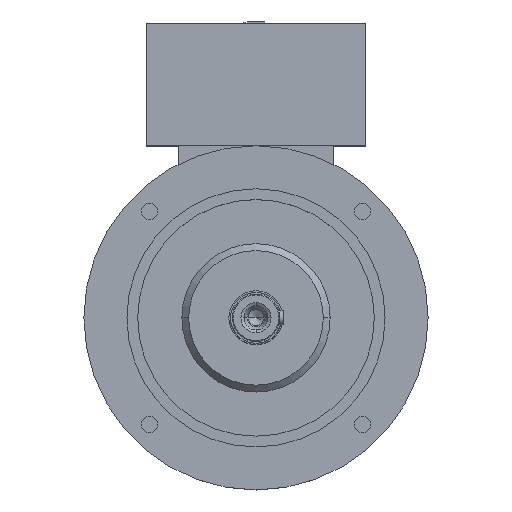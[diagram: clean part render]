
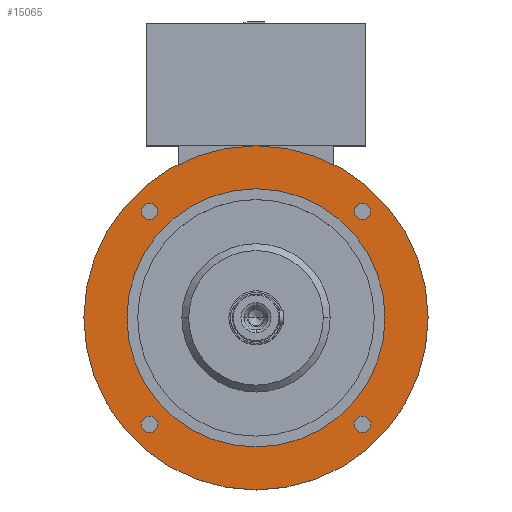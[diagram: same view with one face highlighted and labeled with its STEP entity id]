
A CAD part, top view. The second image highlights one B-rep face of the part: STEP entity #15065.
In plain terms, the highlighted planar face has unit normal (0, 0, 1).
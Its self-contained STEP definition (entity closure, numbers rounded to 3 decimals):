
#205 = VERTEX_POINT ( 'NONE', #16110 ) ;
#340 = VERTEX_POINT ( 'NONE', #16185 ) ;
#785 = AXIS2_PLACEMENT_3D ( 'NONE', #16694, #5240, #14583 ) ;
#822 = EDGE_CURVE ( 'NONE', #6217, #340, #4736, .T. ) ;
#929 = CARTESIAN_POINT ( 'NONE',  ( 114.244, 123.744, 285.5 ) ) ;
#1386 = EDGE_CURVE ( 'NONE', #5854, #18578, #20565, .T. ) ;
#1522 = DIRECTION ( 'NONE',  ( -1., 0., 0. ) ) ;
#1582 = DIRECTION ( 'NONE',  ( 1., 0., 0. ) ) ;
#1885 = EDGE_CURVE ( 'NONE', #205, #24099, #11578, .T. ) ;
#2060 = CIRCLE ( 'NONE', #10553, 150. ) ;
#3074 = ORIENTED_EDGE ( 'NONE', *, *, #17487, .T. ) ;
#3111 = DIRECTION ( 'NONE',  ( 1., 0., 0. ) ) ;
#3278 = CARTESIAN_POINT ( 'NONE',  ( 114.244, -123.744, 285.5 ) ) ;
#3462 = FACE_BOUND ( 'NONE', #14630, .T. ) ;
#3557 = CARTESIAN_POINT ( 'NONE',  ( -123.744, 123.744, 285.5 ) ) ;
#3851 = CARTESIAN_POINT ( 'NONE',  ( -133.244, -123.744, 285.5 ) ) ;
#4111 = DIRECTION ( 'NONE',  ( -1., 0., 0. ) ) ;
#4323 = CARTESIAN_POINT ( 'NONE',  ( -123.744, 123.744, 285.5 ) ) ;
#4736 = CIRCLE ( 'NONE', #9694, 9.5 ) ;
#4769 = VERTEX_POINT ( 'NONE', #17279 ) ;
#5240 = DIRECTION ( 'NONE',  ( 0., 0., -1. ) ) ;
#5276 = DIRECTION ( 'NONE',  ( 0., 0., -1. ) ) ;
#5357 = EDGE_LOOP ( 'NONE', ( #3074, #11965 ) ) ;
#5379 = CIRCLE ( 'NONE', #24443, 9.5 ) ;
#5726 = CARTESIAN_POINT ( 'NONE',  ( 150., 0., 285.5 ) ) ;
#5854 = VERTEX_POINT ( 'NONE', #17193 ) ;
#6128 = DIRECTION ( 'NONE',  ( 1., 0., 0. ) ) ;
#6217 = VERTEX_POINT ( 'NONE', #3851 ) ;
#6250 = DIRECTION ( 'NONE',  ( 1., 0., 0. ) ) ;
#6403 = EDGE_LOOP ( 'NONE', ( #6567, #7742 ) ) ;
#6567 = ORIENTED_EDGE ( 'NONE', *, *, #18017, .T. ) ;
#6805 = CARTESIAN_POINT ( 'NONE',  ( -123.744, -123.744, 285.5 ) ) ;
#6927 = DIRECTION ( 'NONE',  ( 1., 0., 0. ) ) ;
#7051 = DIRECTION ( 'NONE',  ( -1., 0., 0. ) ) ;
#7237 = CIRCLE ( 'NONE', #17421, 200. ) ;
#7350 = DIRECTION ( 'NONE',  ( 1., 0., 0. ) ) ;
#7741 = AXIS2_PLACEMENT_3D ( 'NONE', #4323, #13850, #6250 ) ;
#7742 = ORIENTED_EDGE ( 'NONE', *, *, #18310, .T. ) ;
#7989 = CIRCLE ( 'NONE', #12681, 9.5 ) ;
#8071 = ORIENTED_EDGE ( 'NONE', *, *, #21308, .T. ) ;
#8123 = VERTEX_POINT ( 'NONE', #14098 ) ;
#8552 = FACE_BOUND ( 'NONE', #5357, .T. ) ;
#9109 = CARTESIAN_POINT ( 'NONE',  ( 0., 0., 285.5 ) ) ;
#9694 = AXIS2_PLACEMENT_3D ( 'NONE', #6805, #10037, #3111 ) ;
#9749 = CARTESIAN_POINT ( 'NONE',  ( 123.744, -123.744, 285.5 ) ) ;
#10037 = DIRECTION ( 'NONE',  ( 0., 0., -1. ) ) ;
#10187 = AXIS2_PLACEMENT_3D ( 'NONE', #13260, #19115, #17217 ) ;
#10553 = AXIS2_PLACEMENT_3D ( 'NONE', #13200, #5276, #1522 ) ;
#10998 = CARTESIAN_POINT ( 'NONE',  ( -150., 0., 285.5 ) ) ;
#11008 = EDGE_LOOP ( 'NONE', ( #20583, #20307 ) ) ;
#11178 = VERTEX_POINT ( 'NONE', #22453 ) ;
#11226 = DIRECTION ( 'NONE',  ( 0., 0., -1. ) ) ;
#11514 = VERTEX_POINT ( 'NONE', #10998 ) ;
#11578 = CIRCLE ( 'NONE', #19831, 200. ) ;
#11939 = DIRECTION ( 'NONE',  ( 0., 0., 1. ) ) ;
#11965 = ORIENTED_EDGE ( 'NONE', *, *, #12586, .T. ) ;
#12045 = ORIENTED_EDGE ( 'NONE', *, *, #21275, .T. ) ;
#12262 = CIRCLE ( 'NONE', #15731, 150. ) ;
#12586 = EDGE_CURVE ( 'NONE', #17003, #11514, #12262, .T. ) ;
#12589 = CIRCLE ( 'NONE', #12721, 9.5 ) ;
#12681 = AXIS2_PLACEMENT_3D ( 'NONE', #15342, #24522, #15426 ) ;
#12721 = AXIS2_PLACEMENT_3D ( 'NONE', #9749, #23273, #6128 ) ;
#12735 = FACE_BOUND ( 'NONE', #16052, .T. ) ;
#13200 = CARTESIAN_POINT ( 'NONE',  ( 0., 0., 285.5 ) ) ;
#13223 = EDGE_CURVE ( 'NONE', #340, #6217, #5379, .T. ) ;
#13260 = CARTESIAN_POINT ( 'NONE',  ( 0., 200., 285.5 ) ) ;
#13333 = ORIENTED_EDGE ( 'NONE', *, *, #1386, .T. ) ;
#13765 = VERTEX_POINT ( 'NONE', #929 ) ;
#13850 = DIRECTION ( 'NONE',  ( 0., 0., -1. ) ) ;
#13986 = CIRCLE ( 'NONE', #7741, 9.5 ) ;
#14098 = CARTESIAN_POINT ( 'NONE',  ( -133.244, 123.744, 285.5 ) ) ;
#14583 = DIRECTION ( 'NONE',  ( 1., 0., 0. ) ) ;
#14630 = EDGE_LOOP ( 'NONE', ( #21928, #16953 ) ) ;
#15065 = ADVANCED_FACE ( 'NONE', ( #17861, #8552, #12735, #3462, #24048, #21961 ), #22917, .T. ) ;
#15342 = CARTESIAN_POINT ( 'NONE',  ( 123.744, 123.744, 285.5 ) ) ;
#15426 = DIRECTION ( 'NONE',  ( 1., 0., 0. ) ) ;
#15731 = AXIS2_PLACEMENT_3D ( 'NONE', #9109, #24270, #7051 ) ;
#15822 = DIRECTION ( 'NONE',  ( -1., 0., 0. ) ) ;
#16052 = EDGE_LOOP ( 'NONE', ( #13333, #12045 ) ) ;
#16110 = CARTESIAN_POINT ( 'NONE',  ( 200., 0., 285.5 ) ) ;
#16185 = CARTESIAN_POINT ( 'NONE',  ( -114.244, -123.744, 285.5 ) ) ;
#16234 = CIRCLE ( 'NONE', #17667, 9.5 ) ;
#16465 = CARTESIAN_POINT ( 'NONE',  ( 123.744, 123.744, 285.5 ) ) ;
#16673 = CIRCLE ( 'NONE', #19408, 9.5 ) ;
#16694 = CARTESIAN_POINT ( 'NONE',  ( 123.744, -123.744, 285.5 ) ) ;
#16953 = ORIENTED_EDGE ( 'NONE', *, *, #24210, .T. ) ;
#16979 = CARTESIAN_POINT ( 'NONE',  ( -123.744, -123.744, 285.5 ) ) ;
#17003 = VERTEX_POINT ( 'NONE', #5726 ) ;
#17193 = CARTESIAN_POINT ( 'NONE',  ( 133.244, -123.744, 285.5 ) ) ;
#17217 = DIRECTION ( 'NONE',  ( 1., 0., 0. ) ) ;
#17279 = CARTESIAN_POINT ( 'NONE',  ( -114.244, 123.744, 285.5 ) ) ;
#17421 = AXIS2_PLACEMENT_3D ( 'NONE', #19729, #17654, #15822 ) ;
#17487 = EDGE_CURVE ( 'NONE', #11514, #17003, #2060, .T. ) ;
#17654 = DIRECTION ( 'NONE',  ( 0., 0., 1. ) ) ;
#17667 = AXIS2_PLACEMENT_3D ( 'NONE', #16465, #18368, #6927 ) ;
#17861 = FACE_OUTER_BOUND ( 'NONE', #18835, .T. ) ;
#17934 = ORIENTED_EDGE ( 'NONE', *, *, #1885, .T. ) ;
#18017 = EDGE_CURVE ( 'NONE', #4769, #8123, #16673, .T. ) ;
#18285 = CARTESIAN_POINT ( 'NONE',  ( -200., 0., 285.5 ) ) ;
#18310 = EDGE_CURVE ( 'NONE', #8123, #4769, #13986, .T. ) ;
#18368 = DIRECTION ( 'NONE',  ( 0., 0., -1. ) ) ;
#18578 = VERTEX_POINT ( 'NONE', #3278 ) ;
#18645 = EDGE_CURVE ( 'NONE', #11178, #13765, #7989, .T. ) ;
#18835 = EDGE_LOOP ( 'NONE', ( #8071, #17934 ) ) ;
#19115 = DIRECTION ( 'NONE',  ( 0., 0., 1. ) ) ;
#19408 = AXIS2_PLACEMENT_3D ( 'NONE', #3557, #11226, #1582 ) ;
#19729 = CARTESIAN_POINT ( 'NONE',  ( 0., 0., 285.5 ) ) ;
#19831 = AXIS2_PLACEMENT_3D ( 'NONE', #23360, #11939, #4111 ) ;
#20307 = ORIENTED_EDGE ( 'NONE', *, *, #822, .T. ) ;
#20565 = CIRCLE ( 'NONE', #785, 9.5 ) ;
#20583 = ORIENTED_EDGE ( 'NONE', *, *, #13223, .T. ) ;
#21275 = EDGE_CURVE ( 'NONE', #18578, #5854, #12589, .T. ) ;
#21308 = EDGE_CURVE ( 'NONE', #24099, #205, #7237, .T. ) ;
#21928 = ORIENTED_EDGE ( 'NONE', *, *, #18645, .T. ) ;
#21961 = FACE_BOUND ( 'NONE', #11008, .T. ) ;
#22422 = DIRECTION ( 'NONE',  ( 0., 0., -1. ) ) ;
#22453 = CARTESIAN_POINT ( 'NONE',  ( 133.244, 123.744, 285.5 ) ) ;
#22917 = PLANE ( 'NONE',  #10187 ) ;
#23273 = DIRECTION ( 'NONE',  ( 0., 0., -1. ) ) ;
#23360 = CARTESIAN_POINT ( 'NONE',  ( 0., 0., 285.5 ) ) ;
#24048 = FACE_BOUND ( 'NONE', #6403, .T. ) ;
#24099 = VERTEX_POINT ( 'NONE', #18285 ) ;
#24210 = EDGE_CURVE ( 'NONE', #13765, #11178, #16234, .T. ) ;
#24270 = DIRECTION ( 'NONE',  ( 0., 0., -1. ) ) ;
#24443 = AXIS2_PLACEMENT_3D ( 'NONE', #16979, #22422, #7350 ) ;
#24522 = DIRECTION ( 'NONE',  ( 0., 0., -1. ) ) ;
